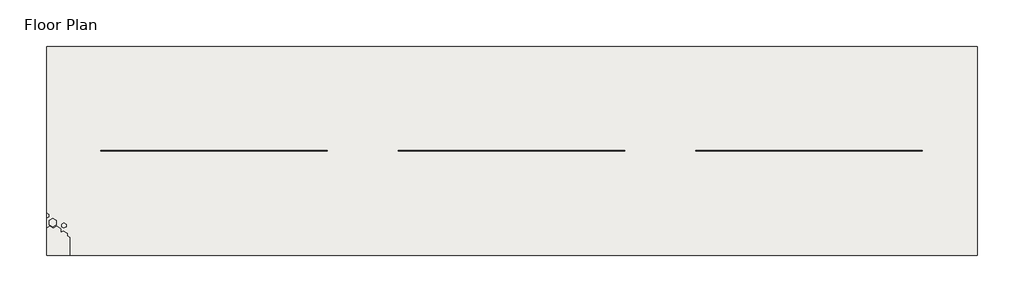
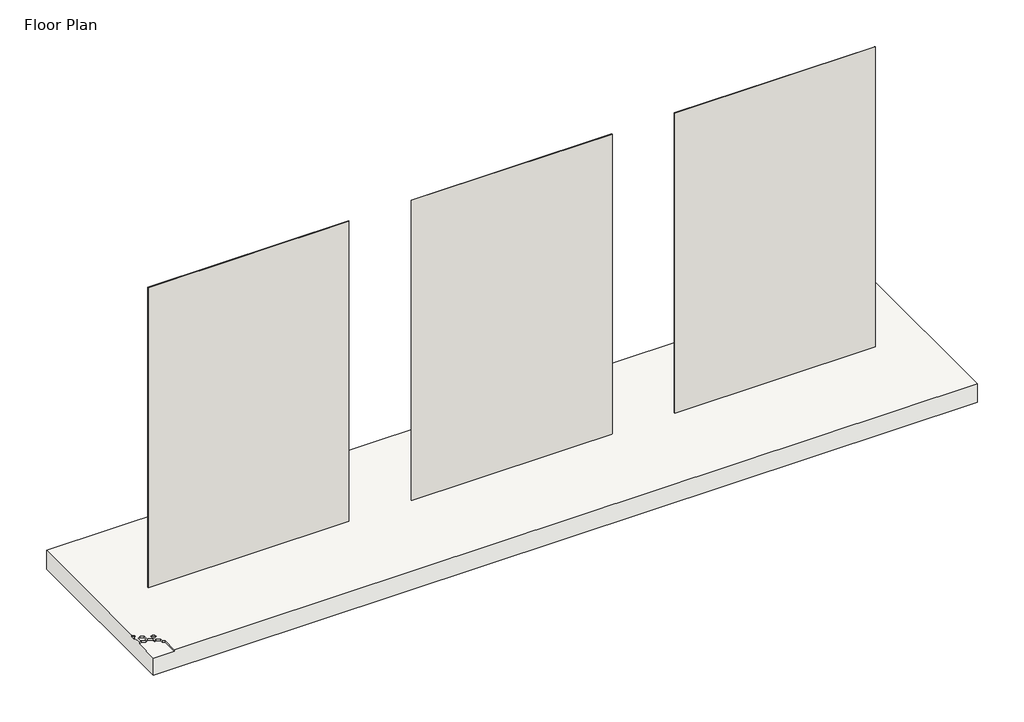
# One storey, incomplete: 3 walls, 1 slab.
"""IFC4 building model written with IfcOpenShell, lengths in millimetres."""

from ifc_helpers import new_model, si_unit, origin, origin_with_axes, place, context, project, spatial, polyline, outline, extrude, faceted_brep, element, save

model = new_model("IFC4")

# Units and contexts
model_context = context("Model", 3, world=origin())
ifc_project = project(units=[si_unit("LENGTHUNIT", "METRE", prefix="MILLI")], contexts=[model_context])

# Site, building, storey
site = spatial("IfcSite", under=ifc_project)
building = spatial("IfcBuilding", under=site)
storey = spatial("IfcBuildingStorey", under=building, Name="Floor Plan", Elevation=0.0)

# Slab
placement = place(None, origin())
element("IfcSlab", 1, ObjectType="Floor 1", at=placement, inside=storey, context=model_context, shape_type="Brep", body=[
    faceted_brep([(207589.564463, -1405.268292, -300.0), (195069.564463, -1405.268292, -300.0), (195069.564463, 1405.268292, -300.0), (207589.564463, 1405.268292, -300.0), (207589.564463, 1405.268292, 0.0), (195069.564463, 1405.268292, 0.0), (195069.564463, -838.8208533, 0.0), (195073.1211266, -836.7674126, 0.0), (195103.8301292, -854.4972635, 0.0), (195103.8301292, -887.6294851, 0.0), (195073.1211266, -905.3593361, 0.0), (195069.564463, -903.3058954, 0.0), (195069.564463, -1029.5470898, 0.0), (195079.1972272, -1035.1085689, 0.0), (195115.3908374, -1014.2121783, 0.0), (195162.4046401, -1041.3556099, 0.0), (195208.4091656, -1014.7948848, 0.0), (195267.6401701, -1048.9919211, 0.0), (195267.6401701, -1095.6301509, 0.0), (195296.9088101, -1078.7318937, 0.0), (195351.5578344, -1110.2835225, 0.0), (195351.5578344, -1149.3943664, 0.0), (195386.1988505, -1169.3943664, 0.0), (195386.1988505, -1405.268292, 0.0), (207589.564463, -1405.268292, 0.0), (195152.4226577, -913.8797767, 0.0), (195198.7748127, -940.6412058, 0.0), (195198.7748127, -995.8128392, 0.0), (195152.4226577, -1022.5742684, 0.0), (195106.0705027, -995.8128392, 0.0), (195106.0705027, -940.6412058, 0.0), (195302.5290945, -971.7658751, 0.0), (195333.3339718, -989.5510793, 0.0), (195333.3339718, -1022.1588741, 0.0), (195302.5290945, -1039.9440783, 0.0), (195271.7242172, -1022.1588741, 0.0), (195271.7242172, -989.5510793, 0.0), (195386.1988505, -1405.268292, -25.0), (195069.564463, -1405.268292, -25.0), (195069.564463, -1029.5470898, -25.0), (195069.564463, -903.3058954, -25.0), (195069.564463, -838.8208533, -25.0), (195386.1988505, -1169.3943664, -25.0), (195351.5578344, -1149.3943664, -25.0), (195351.5578344, -1110.2835225, -25.0), (195296.9088101, -1078.7318937, -25.0), (195267.6401701, -1095.6301509, -25.0), (195267.6401701, -1048.9919211, -25.0), (195208.4091656, -1014.7948848, -25.0), (195162.4046401, -1041.3556099, -25.0), (195115.3908374, -1014.2121783, -25.0), (195079.1972272, -1035.1085689, -25.0), (195198.7748127, -940.6412058, -25.0), (195152.4226577, -913.8797767, -25.0), (195106.0705027, -940.6412058, -25.0), (195106.0705027, -995.8128392, -25.0), (195152.4226577, -1022.5742684, -25.0), (195198.7748127, -995.8128392, -25.0), (195103.8301292, -854.4972635, -25.0), (195073.1211266, -836.7674126, -25.0), (195073.1211266, -905.3593361, -25.0), (195103.8301292, -887.6294851, -25.0), (195333.3339718, -989.5510793, -25.0), (195302.5290945, -971.7658751, -25.0), (195271.7242172, -989.5510793, -25.0), (195271.7242172, -1022.1588741, -25.0), (195302.5290945, -1039.9440783, -25.0), (195333.3339718, -1022.1588741, -25.0)], [[[0, 1, 2, 3]], [[4, 5, 6, 7, 8, 9, 10, 11, 12, 13, 14, 15, 16, 17, 18, 19, 20, 21, 22, 23, 24], [25, 26, 27, 28, 29, 30], [31, 32, 33, 34, 35, 36]], [[1, 0, 24, 23, 37, 38]], [[2, 1, 38, 39, 12, 11, 40, 41, 6, 5]], [[3, 2, 5, 4]], [[42, 43, 44, 45, 46, 47, 48, 49, 50, 51, 39, 38, 37]], [[52, 53, 54, 55, 56, 57]], [[58, 59, 41, 40, 60, 61]], [[62, 63, 64, 65, 66, 67]], [[42, 37, 23, 22]], [[43, 42, 22, 21]], [[44, 43, 21, 20]], [[45, 44, 20, 19]], [[46, 45, 19, 18]], [[47, 46, 18, 17]], [[48, 47, 17, 16]], [[49, 48, 16, 15]], [[50, 49, 15, 14]], [[51, 50, 14, 13]], [[39, 51, 13, 12]], [[53, 52, 26, 25]], [[54, 53, 25, 30]], [[55, 54, 30, 29]], [[56, 55, 29, 28]], [[57, 56, 28, 27]], [[52, 57, 27, 26]], [[59, 58, 8, 7]], [[41, 59, 7, 6]], [[60, 40, 11, 10]], [[61, 60, 10, 9]], [[58, 61, 9, 8]], [[63, 62, 32, 31]], [[64, 63, 31, 36]], [[65, 64, 36, 35]], [[66, 65, 35, 34]], [[67, 66, 34, 33]], [[62, 67, 33, 32]], [[0, 3, 4, 24]]]),
])

# Walls
element("IfcWall", 2, ObjectType="Cemintel SimpleLine 8.5mm x 900mm x 3000mm", at=placement, inside=storey, context=model_context, shape_type="SweptSolid", body=[
    extrude(outline(polyline([(198848.0, -4.5), (195800.0, -4.5), (195800.0, 4.0), (198848.0, 4.0), (198848.0, -4.5)])), origin_with_axes(), (0.0, 0.0, 1.0), 4820.0),
])
element("IfcWall", 3, ObjectType="Cemintel SimpleLine 8.5mm x 1200mm x 2400mm", at=placement, inside=storey, context=model_context, shape_type="SweptSolid", body=[
    extrude(outline(polyline([(202848.0, -4.5), (199800.0, -4.5), (199800.0, 4.0), (202848.0, 4.0), (202848.0, -4.5)])), origin_with_axes(), (0.0, 0.0, 1.0), 4820.0),
])
element("IfcWall", 4, ObjectType="Cemintel SimpleLine 8.5mm x 1200mm x 3000mm", at=placement, inside=storey, context=model_context, shape_type="SweptSolid", body=[
    extrude(outline(polyline([(206848.0, -4.5), (203800.0, -4.5), (203800.0, 4.0), (206848.0, 4.0), (206848.0, -4.5)])), origin_with_axes(), (0.0, 0.0, 1.0), 4820.0),
])

save(model, "model.ifc")
